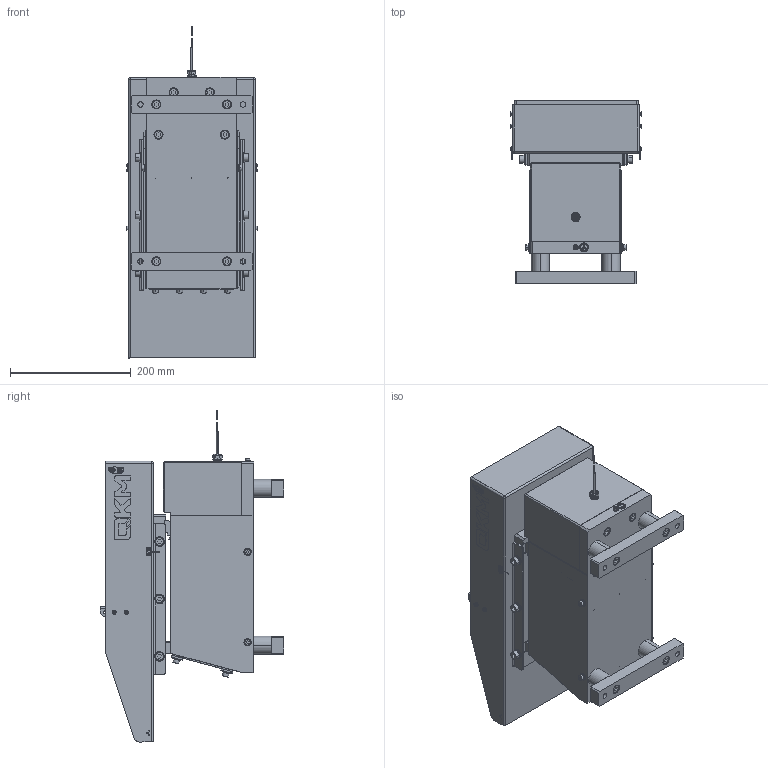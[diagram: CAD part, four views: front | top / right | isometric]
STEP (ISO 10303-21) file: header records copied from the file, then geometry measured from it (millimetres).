
FILE_DESCRIPTION (( 'STEP AP214' ), '1' );
FILE_NAME ('3-124-0000101,储料仓,标准,QFA-3L,包装成品.STEP', '2025-07-17T06:45:08', ( '' ), ( '' ), 'SwSTEP 2.0', 'SolidWorks 2017', '' );
FILE_SCHEMA (( 'AUTOMOTIVE_DESIGN' ));
Length unit declared in the file: millimetre
Products named in the file (1): 3-124-0000101,储料仓,标准,QFA-3L,包装成品
Bounding box: 218.6 x 304.14 x 550.08 mm (x, y, z)
Surface area: 1256298.8 mm2 (no closed solid volume)
Topology: 0 solids, 158 shells, 4043 faces, 9960 edges, 6415 vertices
Faces by surface type: plane 1750, cylinder 1266, bspline 638, cone 351, torus 34, sphere 4
Entity records: 172108 total; most frequent: CARTESIAN_POINT 32698, ORIENTED_EDGE 19764, DIRECTION 18064, EDGE_CURVE 9882, VERTEX_POINT 6415, AXIS2_PLACEMENT_3D 6285, VECTOR 5494, LINE 5494
